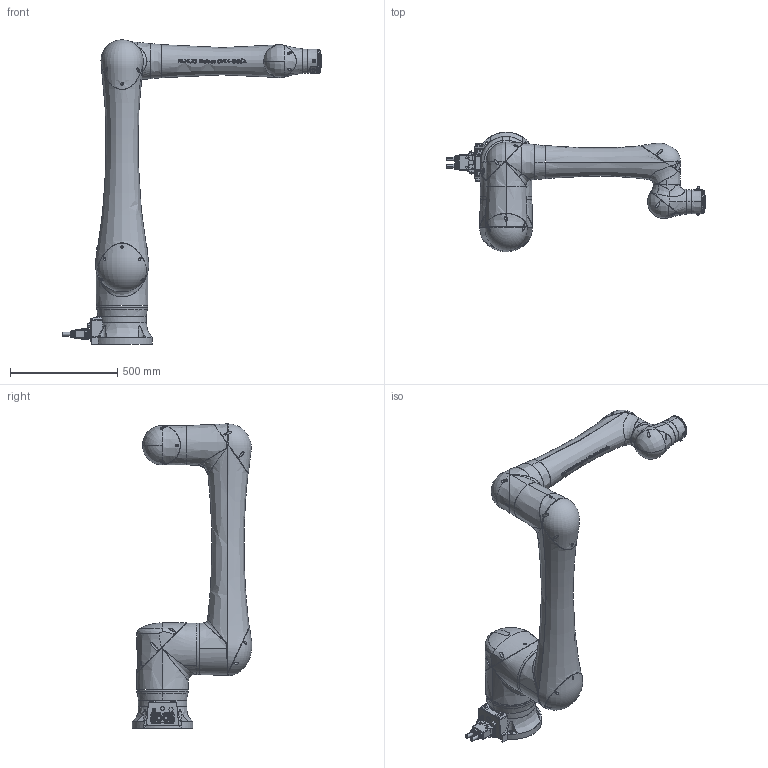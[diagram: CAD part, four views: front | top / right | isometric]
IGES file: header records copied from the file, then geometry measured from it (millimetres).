
Start section: SolidWorks IGES file using analytic representation for surfaces
Global section: file name: C:\Users\1004413\Desktop\3D_CRX-30iA_v01.IGS; native system: SolidWorks 2024; preprocessor: SolidWorks 2024; author: 1004413; date: 241212.104859; units: metre
Bounding box: 1207.85 x 557.75 x 1419.5 mm (x, y, z)
Surface area: 2185066.3 mm2 (no closed solid volume)
Topology: 0 solids, 0 shells, 1148 faces, 19295 edges, 19277 vertices
Faces by surface type: bspline 760, revolution 388
